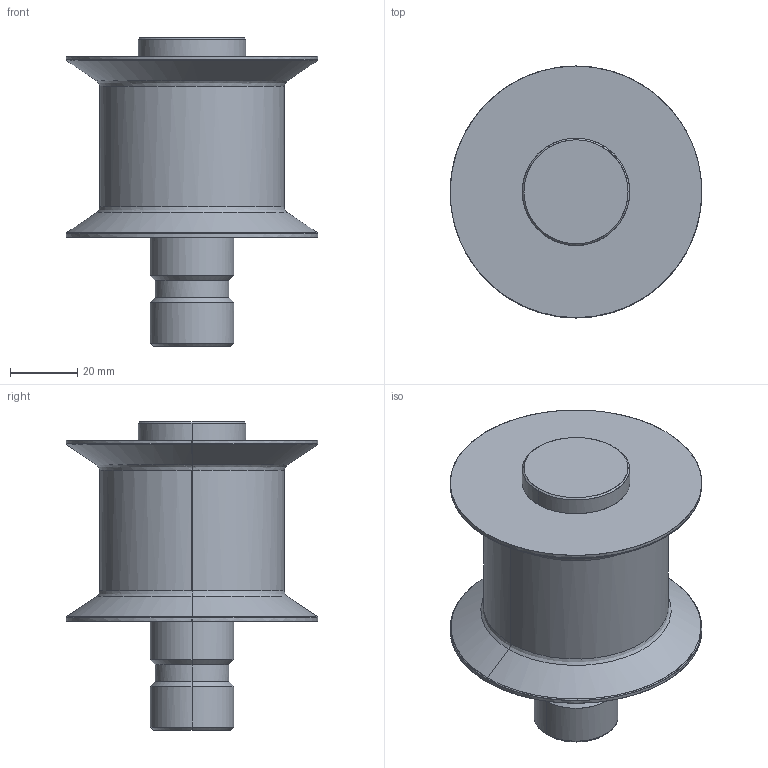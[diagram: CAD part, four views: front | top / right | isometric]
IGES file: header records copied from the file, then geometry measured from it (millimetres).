
Global section: file name: E:\UnigraphicsGraphicData\MISUMI_PRESS-PARTS\IGES\3d_gdrtat55-38_01791_r00.igs; native system: NX V5.0; preprocessor: UGS NX IGES V5.0; author: MISUMI; date: 20110105.160705; units: millimetre
Bounding box: 75 x 75 x 92 mm (x, y, z)
Surface area: 33183.4 mm2 (no closed solid volume)
Topology: 0 solids, 0 shells, 44 faces, 280 edges, 280 vertices
Faces by surface type: bspline 44
